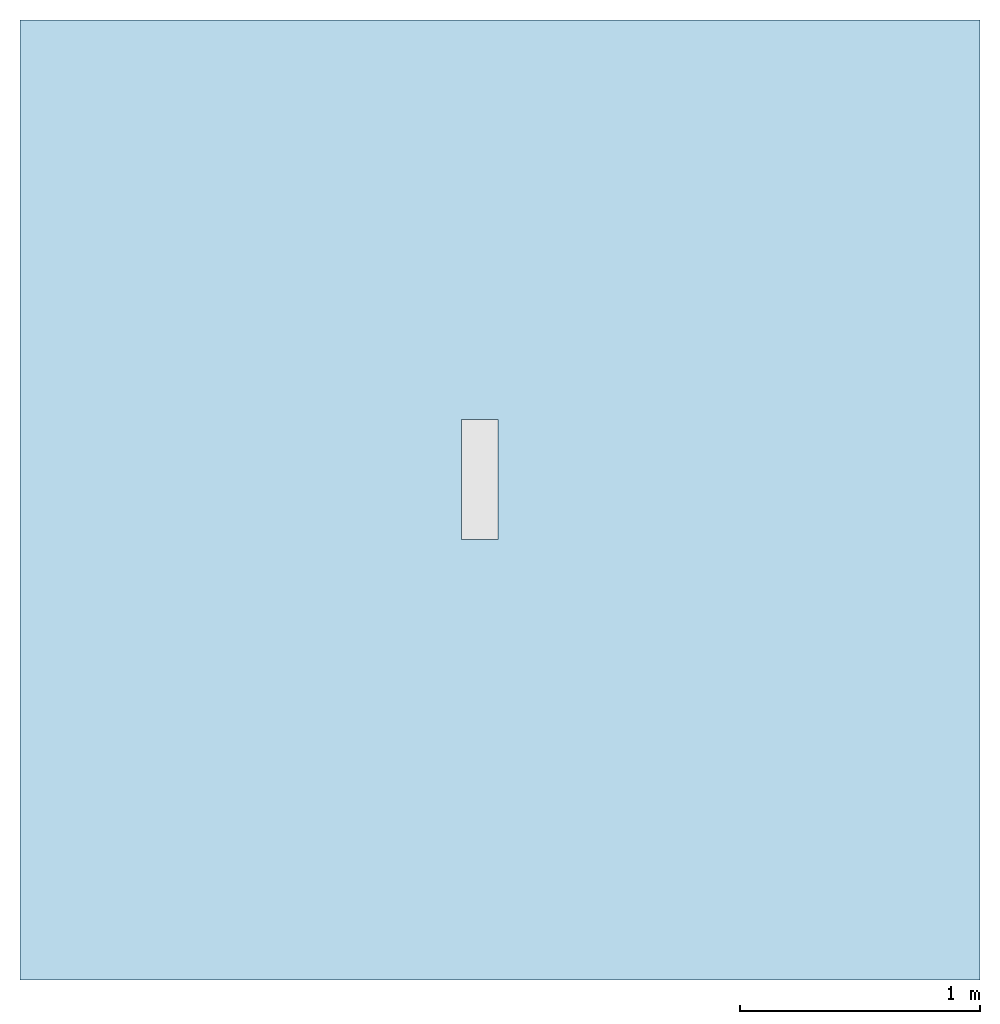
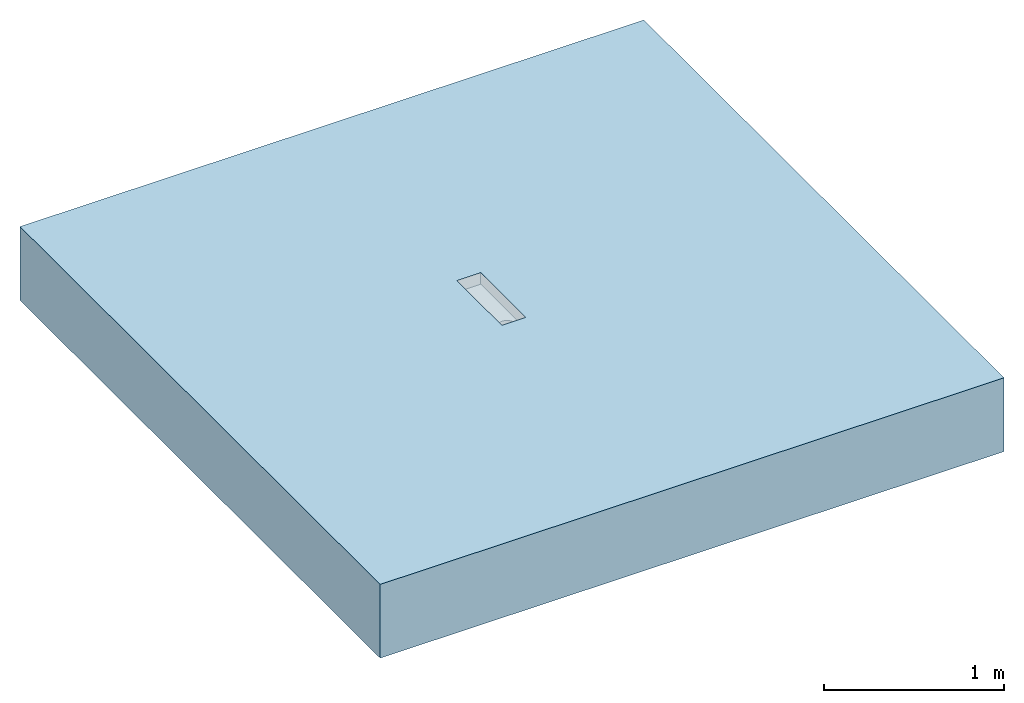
# One storey, incomplete: 1 slab, 1 opening.
"""IFC2X3 building model written with IfcOpenShell, lengths in millimetres."""

from ifc_helpers import new_model, entity, si_unit, converted_unit, direction, frame, frame_2d, origin, place, context, subcontext, project, spatial, rectangle, extrude, faceted_brep, material, layer, layer_set, layer_usage, element, save


model = new_model("IFC2X3")

# Units and contexts
model_context = context("Model", 3, precision=1e-06, world=origin(), true_north=direction((2.0, 6.12303176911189e-17, 1.0)))
context_of_model = context(None, 3, precision=1e-06, world=origin(), true_north=direction((2.0, 6.12303176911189e-17, 1.0)))
body_context = subcontext(model_context, "Body", "Model", "MODEL_VIEW")
ifc_project = project(units=[si_unit("LENGTHUNIT", "METRE", prefix="MILLI"), si_unit("AREAUNIT", "SQUARE_METRE", prefix="MILLI"), si_unit("VOLUMEUNIT", "CUBIC_METRE", prefix="MILLI"), converted_unit("PLANEANGLEUNIT", "DEGREE", entity("IfcRatioMeasure", 0.0174532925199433), si_unit("PLANEANGLEUNIT", "RADIAN"), dimensions=[0, 0, 0, 0, 0, 0, 0]), si_unit("TIMEUNIT", "SECOND")], contexts=[model_context, context_of_model])

# Site, building, storey
site_placement = place(None, origin())
site = spatial("IfcSite", under=ifc_project, at=site_placement, Name="Default", CompositionType="ELEMENT")
building_placement = place(site_placement, origin())
building = spatial("IfcBuilding", under=site, at=building_placement, CompositionType="ELEMENT")
storey_placement = place(building_placement, origin())
storey = spatial("IfcBuildingStorey", under=building, at=storey_placement, Name="Level 1", CompositionType="ELEMENT", Elevation=0.0)

# Slab, opening
ifc_material = material(Name="Concrete, Broom Finish")
ifc_layer = layer(ifc_material, 500.0)
ifc_layer_set = layer_set([ifc_layer], Name="Floor:Generic Floor - 500mm")
ifc_layer_usage = layer_usage(ifc_layer_set, "AXIS3", "POSITIVE", 0.0)
slab_placement = place(storey_placement, origin())
slab = element("IfcSlab", 1, at=slab_placement, inside=storey, material=ifc_layer_usage, Name="Floor:Generic Floor - 500mm", ObjectType="Floor:Generic Floor - 500mm", PredefinedType="FLOOR", context=body_context, shape_type="SweptSolid", body=[
    extrude(rectangle(XDim=4000.0, YDim=4000.0, at=frame_2d((0.0, 0.0), x_axis=(-1.0, 0.0))), frame((-419.114478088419, -735.273497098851, 0.0), z_axis=(0.0, 0.0, -1.0), x_axis=(-1.0, 0.0, 0.0)), (0.0, 0.0, 1.0), 500.0),
])
opening_placement = place(slab_placement, frame((-579.562093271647, -900.871697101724, -181.999997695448)))
element("IfcOpeningElement", 2, at=opening_placement, cuts=slab, ObjectType="Recess", context=body_context, shape_type="Brep", body=[
    faceted_brep([(0.0, 0.0, 104.19999769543), (153.0, 0.0, 181.99999769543), (153.0, 0.0, 104.19999769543), (0.0, 0.0, 181.99999769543), (153.0, 500.0, 104.19999769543), (0.0, 500.0, 181.99999769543), (0.0, 500.0, 104.19999769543), (153.0, 500.0, 181.99999769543), (76.4999999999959, 20.0, 104.19999769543), (62.2649525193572, 21.8740795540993, 104.19999769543), (49.0, 27.3686027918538, 104.19999769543), (28.8686027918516, 47.4999999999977, 104.19999769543), (23.374079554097, 60.764952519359, 104.19999769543), (37.6091270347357, 36.1091270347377, 104.19999769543), (21.4999999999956, 75.0, 104.19999769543), (104.0, 27.3686027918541, 104.19999769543), (90.7350474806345, 21.8740795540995, 104.19999769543), (115.390872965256, 36.1091270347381, 104.19999769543), (124.13139720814, 47.4999999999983, 104.19999769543), (131.499999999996, 75.0, 104.19999769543), (129.625920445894, 60.7649525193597, 104.19999769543), (129.625920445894, 89.2350474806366, 104.19999769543), (23.374079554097, 89.235047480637, 104.19999769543), (28.8686027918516, 102.499999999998, 104.19999769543), (49.0, 122.631397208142, 104.19999769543), (37.6091270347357, 113.890872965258, 104.19999769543), (62.2649525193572, 128.125920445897, 104.19999769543), (76.4999999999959, 130.0, 104.19999769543), (115.390872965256, 113.890872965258, 104.19999769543), (124.13139720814, 102.499999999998, 104.19999769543), (90.7350474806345, 128.125920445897, 104.19999769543), (104.0, 122.631397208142, 104.19999769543), (62.2649525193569, 21.8740795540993, 0.0), (76.4999999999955, 20.0, 0.0), (49.0, 27.3686027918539, 0.0), (37.6091270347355, 36.109127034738, 0.0), (28.8686027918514, 47.4999999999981, 0.0), (124.13139720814, 47.499999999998, 0.0), (28.8686027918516, 102.499999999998, 0.0), (23.3740795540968, 60.7649525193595, 0.0), (23.374079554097, 89.2350474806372, 0.0), (90.7350474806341, 21.8740795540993, 0.0), (104.0, 27.3686027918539, 0.0), (115.390872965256, 36.1091270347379, 0.0), (129.625920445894, 60.7649525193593, 0.0), (131.499999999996, 75.0, 0.0), (21.4999999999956, 75.0, 0.0), (124.13139720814, 102.499999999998, 0.0), (37.6091270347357, 113.890872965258, 0.0), (76.4999999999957, 130.0, 0.0), (62.2649525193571, 128.125920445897, 0.0), (49.0, 122.631397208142, 0.0), (115.390872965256, 113.890872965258, 0.0), (129.625920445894, 89.2350474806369, 0.0), (104.0, 122.631397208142, 0.0), (90.7350474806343, 128.125920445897, 0.0)], [[[0, 1, 2]], [[1, 0, 3]], [[4, 5, 6]], [[5, 4, 7]], [[7, 1, 3]], [[3, 5, 7]], [[6, 3, 0]], [[3, 6, 5]], [[8, 9, 0]], [[10, 0, 9]], [[2, 8, 0]], [[0, 11, 12]], [[0, 10, 13]], [[0, 13, 11]], [[12, 14, 0]], [[15, 16, 2]], [[8, 2, 16]], [[17, 15, 2]], [[2, 18, 17]], [[2, 19, 20]], [[2, 20, 18]], [[21, 19, 2]], [[22, 0, 14]], [[6, 22, 23]], [[24, 6, 25]], [[23, 25, 6]], [[6, 24, 26]], [[26, 27, 6]], [[22, 6, 0]], [[4, 28, 29]], [[4, 29, 21]], [[4, 27, 30]], [[28, 4, 31]], [[30, 31, 4]], [[4, 6, 27]], [[2, 4, 21]], [[7, 2, 1]], [[2, 7, 4]], [[32, 33, 34]], [[35, 34, 36]], [[36, 37, 38]], [[33, 36, 34]], [[39, 36, 40]], [[41, 42, 33]], [[43, 33, 42]], [[33, 43, 36]], [[43, 37, 36]], [[44, 45, 37]], [[46, 39, 40]], [[38, 37, 47]], [[38, 47, 48]], [[49, 50, 51]], [[47, 51, 48]], [[52, 49, 51]], [[53, 47, 45]], [[45, 47, 37]], [[54, 55, 52]], [[52, 51, 47]], [[52, 55, 49]], [[38, 40, 36]], [[47, 53, 21]], [[47, 29, 52]], [[55, 54, 31]], [[28, 54, 52]], [[49, 55, 30]], [[45, 19, 53]], [[19, 21, 53]], [[21, 29, 47]], [[29, 28, 52]], [[54, 28, 31]], [[31, 30, 55]], [[30, 27, 49]], [[51, 50, 26]], [[51, 24, 48]], [[40, 38, 23]], [[25, 38, 48]], [[46, 40, 22]], [[27, 26, 50]], [[26, 24, 51]], [[24, 25, 48]], [[25, 23, 38]], [[40, 23, 22]], [[22, 14, 46]], [[49, 27, 50]], [[39, 46, 12]], [[36, 39, 11]], [[32, 34, 10]], [[32, 9, 33]], [[12, 11, 39]], [[46, 14, 12]], [[11, 13, 35]], [[13, 34, 35]], [[10, 34, 13]], [[10, 9, 32]], [[36, 11, 35]], [[9, 8, 33]], [[42, 41, 16]], [[42, 15, 43]], [[44, 37, 18]], [[17, 37, 43]], [[45, 44, 20]], [[8, 16, 41]], [[16, 15, 42]], [[15, 17, 43]], [[17, 18, 37]], [[44, 18, 20]], [[20, 19, 45]], [[33, 8, 41]]]),
])

save(model, "model.ifc")
